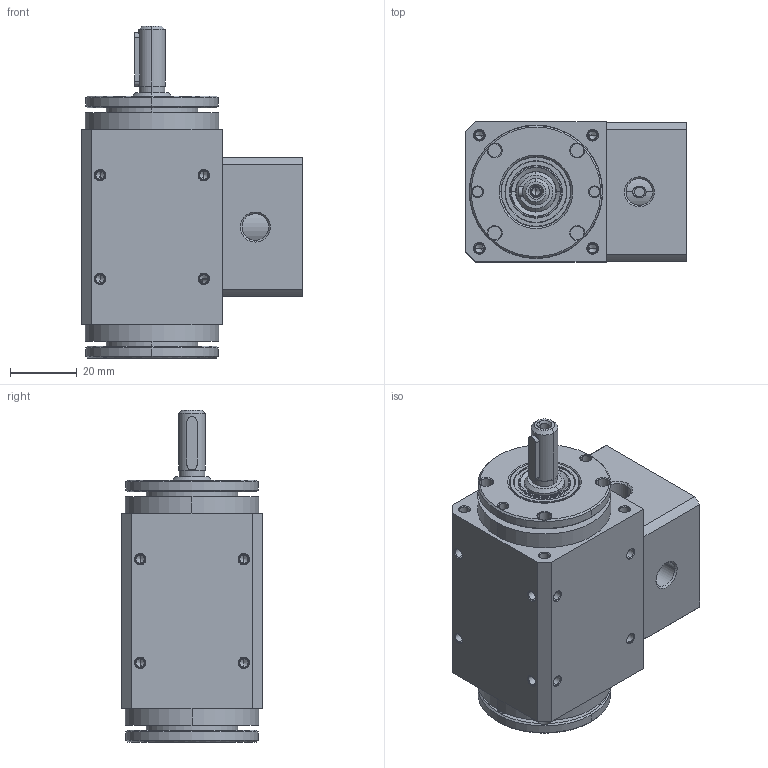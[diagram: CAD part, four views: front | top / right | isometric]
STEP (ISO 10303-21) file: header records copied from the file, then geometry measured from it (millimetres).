
FILE_DESCRIPTION (( 'STEP AP203' ), '1' );
FILE_NAME ('WS42SF-1-8-30-46-M4.STEP', '2012-09-24T08:03:35', ( 'user' ), ( 'SYNNEX' ), 'SwSTEP 2.0', 'SolidWorks 2008', '' );
FILE_SCHEMA (( 'CONFIG_CONTROL_DESIGN' ));
Products named in the file (1): WS42SF-1-8-30-46-M4
Bounding box: 66 x 42 x 99.5 mm (x, y, z)
Volume: 116506.8 mm3; surface area: 54306.5 mm2
Topology: 10 solids, 10 shells, 989 faces, 2508 edges, 1520 vertices
Faces by surface type: cylinder 386, cone 269, plane 164, sphere 112, torus 50, bspline 8
Entity records: 38765 total; most frequent: CARTESIAN_POINT 15274, DIRECTION 5046, ORIENTED_EDGE 4896, EDGE_CURVE 2448, AXIS2_PLACEMENT_3D 2156, VERTEX_POINT 1520, CIRCLE 1174, EDGE_LOOP 1164
